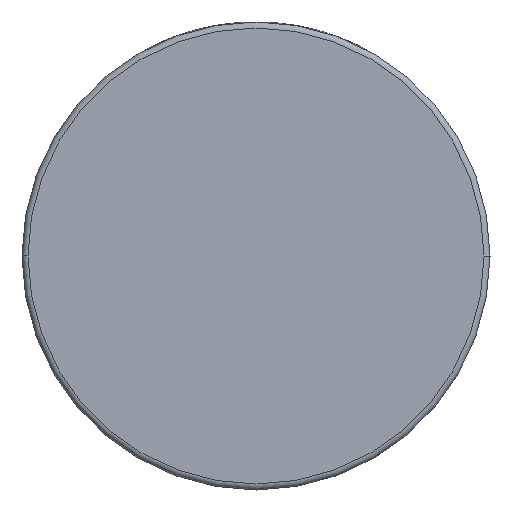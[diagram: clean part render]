
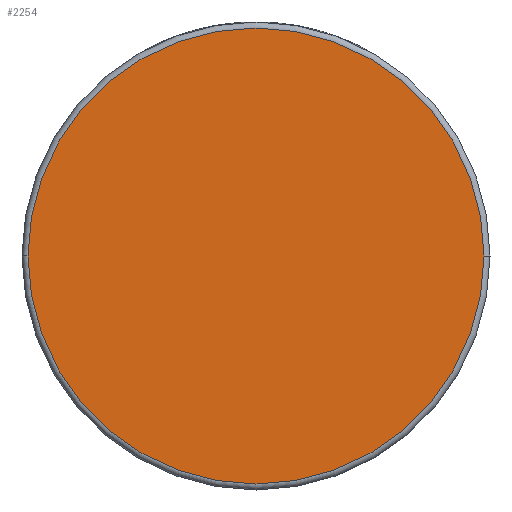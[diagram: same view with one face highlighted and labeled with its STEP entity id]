
A CAD part, front view. The second image highlights one B-rep face of the part: STEP entity #2254.
In plain terms, the highlighted planar face has unit normal (0, -1, 0).
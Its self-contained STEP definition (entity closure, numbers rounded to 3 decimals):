
#10 = VERTEX_POINT ( 'NONE', #740 ) ;
#337 = VERTEX_POINT ( 'NONE', #2197 ) ;
#438 = CIRCLE ( 'NONE', #996, 38. ) ;
#740 = CARTESIAN_POINT ( 'NONE',  ( -38., -26.5, 0. ) ) ;
#777 = EDGE_CURVE ( 'NONE', #10, #337, #438, .T. ) ;
#969 = EDGE_LOOP ( 'NONE', ( #3845, #3468 ) ) ;
#996 = AXIS2_PLACEMENT_3D ( 'NONE', #1825, #1098, #1496 ) ;
#1098 = DIRECTION ( 'NONE',  ( 0., -1., 0. ) ) ;
#1341 = EDGE_CURVE ( 'NONE', #337, #10, #1744, .T. ) ;
#1479 = AXIS2_PLACEMENT_3D ( 'NONE', #3615, #3680, #3637 ) ;
#1496 = DIRECTION ( 'NONE',  ( 1., 0., 0. ) ) ;
#1744 = CIRCLE ( 'NONE', #3702, 38. ) ;
#1825 = CARTESIAN_POINT ( 'NONE',  ( 0., -26.5, 0. ) ) ;
#1995 = FACE_OUTER_BOUND ( 'NONE', #969, .T. ) ;
#2197 = CARTESIAN_POINT ( 'NONE',  ( 38., -26.5, 0. ) ) ;
#2254 = ADVANCED_FACE ( 'NONE', ( #1995 ), #3335, .T. ) ;
#2277 = DIRECTION ( 'NONE',  ( 1., 0., 0. ) ) ;
#3272 = DIRECTION ( 'NONE',  ( 0., -1., 0. ) ) ;
#3335 = PLANE ( 'NONE',  #1479 ) ;
#3468 = ORIENTED_EDGE ( 'NONE', *, *, #777, .T. ) ;
#3556 = CARTESIAN_POINT ( 'NONE',  ( 0., -26.5, 0. ) ) ;
#3615 = CARTESIAN_POINT ( 'NONE',  ( 39., -26.5, 0. ) ) ;
#3637 = DIRECTION ( 'NONE',  ( 1., 0., 0. ) ) ;
#3680 = DIRECTION ( 'NONE',  ( 0., -1., 0. ) ) ;
#3702 = AXIS2_PLACEMENT_3D ( 'NONE', #3556, #3272, #2277 ) ;
#3845 = ORIENTED_EDGE ( 'NONE', *, *, #1341, .T. ) ;
